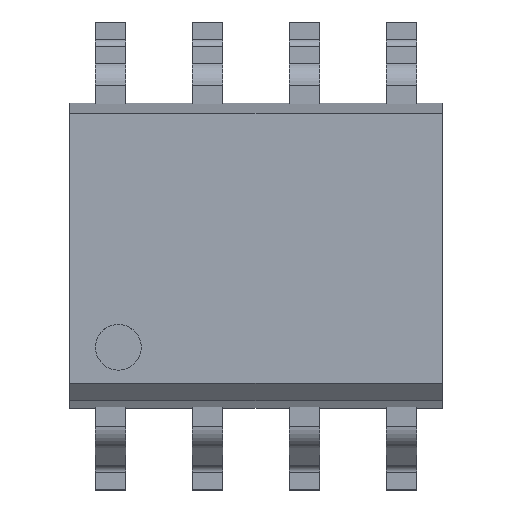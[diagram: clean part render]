
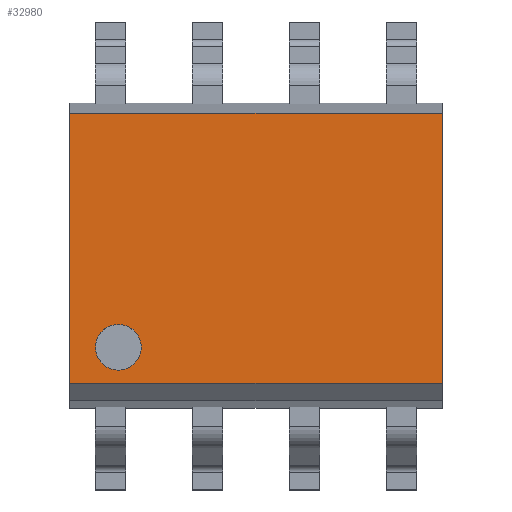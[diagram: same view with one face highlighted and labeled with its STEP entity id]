
A CAD part, top view. The second image highlights one B-rep face of the part: STEP entity #32980.
In plain terms, the highlighted planar face has unit normal (0, 0, 1) as drawn and (0, 1, 0) by its records, which use the part's own axes.
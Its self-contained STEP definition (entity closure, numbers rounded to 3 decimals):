
#31670=CARTESIAN_POINT('',(-1.805,0.875,1.5));
#31680=VERTEX_POINT('',#31670);
#31710=CARTESIAN_POINT('',(-1.805,0.875,1.2));
#31720=DIRECTION('',(0.,-1.,0.));
#31730=DIRECTION('',(0.,0.,1.));
#31740=AXIS2_PLACEMENT_3D('',#31710,#31720,#31730);
#31750=CIRCLE('',#31740,0.3);
#31760=CARTESIAN_POINT('',(-1.805,0.875,0.9));
#31770=VERTEX_POINT('',#31760);
#31780=EDGE_CURVE('',#31680,#31770,#31750,.T.);
#32280=CARTESIAN_POINT('',(2.445,0.875,1.67));
#32290=DIRECTION('',(-1.,0.,0.));
#32300=VECTOR('',#32290,1.);
#32310=LINE('',#32280,#32300);
#32320=CARTESIAN_POINT('',(2.445,0.875,1.67));
#32330=VERTEX_POINT('',#32320);
#32340=CARTESIAN_POINT('',(-2.445,0.875,1.67));
#32350=VERTEX_POINT('',#32340);
#32360=EDGE_CURVE('',#32330,#32350,#32310,.T.);
#32630=CARTESIAN_POINT('',(-7.093,0.875,-1.868));
#32640=DIRECTION('',(-0.,1.,0.));
#32650=DIRECTION('',(0.,0.,1.));
#32660=AXIS2_PLACEMENT_3D('',#32630,#32640,#32650);
#32670=PLANE('',#32660);
#32680=ORIENTED_EDGE('',*,*,#31780,.T.);
#32690=EDGE_CURVE('',#31770,#31680,#31750,.T.);
#32700=ORIENTED_EDGE('',*,*,#32690,.T.);
#32710=EDGE_LOOP('',(#32700,#32680));
#32720=FACE_BOUND('',#32710,.T.);
#32730=CARTESIAN_POINT('',(2.445,0.875,-1.868));
#32740=DIRECTION('',(-1.,0.,0.));
#32750=VECTOR('',#32740,1.);
#32760=LINE('',#32730,#32750);
#32770=CARTESIAN_POINT('',(2.445,0.875,-1.868));
#32780=VERTEX_POINT('',#32770);
#32790=CARTESIAN_POINT('',(-2.445,0.875,-1.868));
#32800=VERTEX_POINT('',#32790);
#32810=EDGE_CURVE('',#32780,#32800,#32760,.T.);
#32820=ORIENTED_EDGE('',*,*,#32810,.T.);
#32830=CARTESIAN_POINT('',(2.445,0.875,-1.868));
#32840=DIRECTION('',(0.,0.,1.));
#32850=VECTOR('',#32840,1.);
#32860=LINE('',#32830,#32850);
#32870=EDGE_CURVE('',#32780,#32330,#32860,.T.);
#32880=ORIENTED_EDGE('',*,*,#32870,.F.);
#32890=ORIENTED_EDGE('',*,*,#32360,.F.);
#32900=CARTESIAN_POINT('',(-2.445,0.875,-1.868));
#32910=DIRECTION('',(0.,0.,1.));
#32920=VECTOR('',#32910,1.);
#32930=LINE('',#32900,#32920);
#32940=EDGE_CURVE('',#32800,#32350,#32930,.T.);
#32950=ORIENTED_EDGE('',*,*,#32940,.T.);
#32960=EDGE_LOOP('',(#32950,#32890,#32880,#32820));
#32970=FACE_OUTER_BOUND('',#32960,.T.);
#32980=ADVANCED_FACE('',(#32720,#32970),#32670,.T.);
